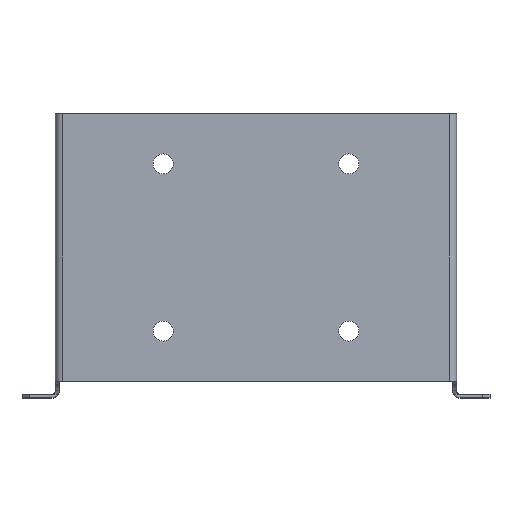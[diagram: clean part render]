
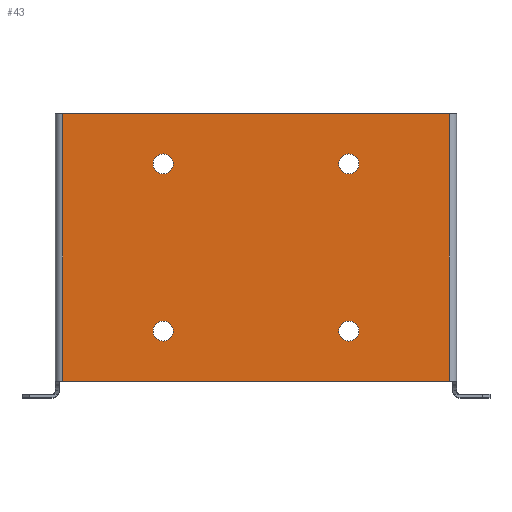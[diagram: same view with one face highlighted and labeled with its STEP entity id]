
A CAD part, top view. The second image highlights one B-rep face of the part: STEP entity #43.
In plain terms, the highlighted planar face has unit normal (0, 0, 1).
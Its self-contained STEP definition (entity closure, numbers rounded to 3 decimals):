
#9 = CARTESIAN_POINT ( 'NONE',  ( 76.3, 78.5, 100. ) ) ;
#21 = DIRECTION ( 'NONE',  ( 0., 0., 1. ) ) ;
#41 = CARTESIAN_POINT ( 'NONE',  ( 31.7, 78.5, 100. ) ) ;
#43 = ADVANCED_FACE ( 'NONE', ( #997, #580, #1010, #399, #1171 ), #867, .F. ) ;
#58 = ORIENTED_EDGE ( 'NONE', *, *, #1542, .F. ) ;
#66 = ORIENTED_EDGE ( 'NONE', *, *, #1575, .F. ) ;
#90 = CARTESIAN_POINT ( 'NONE',  ( 26.3, 78.5, 100. ) ) ;
#153 = LINE ( 'NONE', #1927, #506 ) ;
#175 = ORIENTED_EDGE ( 'NONE', *, *, #759, .T. ) ;
#178 = VECTOR ( 'NONE', #612, 1000. ) ;
#208 = ORIENTED_EDGE ( 'NONE', *, *, #485, .F. ) ;
#216 = CARTESIAN_POINT ( 'NONE',  ( 106., 20., 100. ) ) ;
#218 = VECTOR ( 'NONE', #962, 1000. ) ;
#252 = VERTEX_POINT ( 'NONE', #9 ) ;
#255 = VERTEX_POINT ( 'NONE', #1362 ) ;
#273 = DIRECTION ( 'NONE',  ( 1., 0., 0. ) ) ;
#277 = AXIS2_PLACEMENT_3D ( 'NONE', #847, #1159, #704 ) ;
#309 = CARTESIAN_POINT ( 'NONE',  ( 29., 33.5, 100. ) ) ;
#324 = LINE ( 'NONE', #1060, #178 ) ;
#336 = VERTEX_POINT ( 'NONE', #384 ) ;
#380 = EDGE_CURVE ( 'NONE', #1726, #1459, #153, .T. ) ;
#384 = CARTESIAN_POINT ( 'NONE',  ( 81.7, 78.5, 100. ) ) ;
#399 = FACE_BOUND ( 'NONE', #922, .T. ) ;
#404 = VECTOR ( 'NONE', #774, 1000. ) ;
#425 = DIRECTION ( 'NONE',  ( 1., 0., 0. ) ) ;
#428 = CARTESIAN_POINT ( 'NONE',  ( 79., 33.5, 100. ) ) ;
#443 = CIRCLE ( 'NONE', #1762, 2.7 ) ;
#447 = EDGE_CURVE ( 'NONE', #622, #1952, #721, .T. ) ;
#464 = EDGE_CURVE ( 'NONE', #252, #336, #443, .T. ) ;
#485 = EDGE_CURVE ( 'NONE', #336, #252, #1409, .T. ) ;
#506 = VECTOR ( 'NONE', #1057, 1000. ) ;
#553 = CARTESIAN_POINT ( 'NONE',  ( 0., 92., 100. ) ) ;
#564 = EDGE_LOOP ( 'NONE', ( #688, #948, #175, #1635 ) ) ;
#565 = CARTESIAN_POINT ( 'NONE',  ( 29., 78.5, 100. ) ) ;
#580 = FACE_BOUND ( 'NONE', #1896, .T. ) ;
#584 = VERTEX_POINT ( 'NONE', #1700 ) ;
#612 = DIRECTION ( 'NONE',  ( 0., 1., 0. ) ) ;
#622 = VERTEX_POINT ( 'NONE', #1384 ) ;
#638 = CARTESIAN_POINT ( 'NONE',  ( 79., 78.5, 100. ) ) ;
#688 = ORIENTED_EDGE ( 'NONE', *, *, #380, .T. ) ;
#704 = DIRECTION ( 'NONE',  ( -1., 0., 0. ) ) ;
#707 = VERTEX_POINT ( 'NONE', #90 ) ;
#715 = AXIS2_PLACEMENT_3D ( 'NONE', #428, #1147, #273 ) ;
#721 = CIRCLE ( 'NONE', #1101, 2.7 ) ;
#759 = EDGE_CURVE ( 'NONE', #1497, #255, #1432, .T. ) ;
#774 = DIRECTION ( 'NONE',  ( 0., -1., 0. ) ) ;
#776 = DIRECTION ( 'NONE',  ( 1., 0., 0. ) ) ;
#783 = CIRCLE ( 'NONE', #1400, 2.7 ) ;
#792 = DIRECTION ( 'NONE',  ( 1., 0., 0. ) ) ;
#801 = ORIENTED_EDGE ( 'NONE', *, *, #1852, .F. ) ;
#847 = CARTESIAN_POINT ( 'NONE',  ( 0., 0., 100. ) ) ;
#855 = DIRECTION ( 'NONE',  ( 0., 0., 1. ) ) ;
#867 = PLANE ( 'NONE',  #277 ) ;
#870 = DIRECTION ( 'NONE',  ( 0., 0., 1. ) ) ;
#922 = EDGE_LOOP ( 'NONE', ( #801, #1774 ) ) ;
#941 = AXIS2_PLACEMENT_3D ( 'NONE', #638, #1688, #1372 ) ;
#948 = ORIENTED_EDGE ( 'NONE', *, *, #1713, .T. ) ;
#962 = DIRECTION ( 'NONE',  ( -1., 0., 0. ) ) ;
#964 = VERTEX_POINT ( 'NONE', #1697 ) ;
#975 = AXIS2_PLACEMENT_3D ( 'NONE', #309, #1679, #1527 ) ;
#997 = FACE_BOUND ( 'NONE', #1526, .T. ) ;
#1000 = CIRCLE ( 'NONE', #1628, 2.7 ) ;
#1010 = FACE_BOUND ( 'NONE', #1536, .T. ) ;
#1026 = DIRECTION ( 'NONE',  ( 1., 0., 0. ) ) ;
#1027 = EDGE_CURVE ( 'NONE', #964, #584, #1074, .T. ) ;
#1057 = DIRECTION ( 'NONE',  ( 1., 0., 0. ) ) ;
#1060 = CARTESIAN_POINT ( 'NONE',  ( 106., 0., 100. ) ) ;
#1074 = CIRCLE ( 'NONE', #975, 2.7 ) ;
#1082 = ORIENTED_EDGE ( 'NONE', *, *, #464, .F. ) ;
#1087 = CARTESIAN_POINT ( 'NONE',  ( 29., 78.5, 100. ) ) ;
#1101 = AXIS2_PLACEMENT_3D ( 'NONE', #1763, #870, #1464 ) ;
#1116 = VERTEX_POINT ( 'NONE', #41 ) ;
#1147 = DIRECTION ( 'NONE',  ( 0., 0., 1. ) ) ;
#1159 = DIRECTION ( 'NONE',  ( 0., 0., -1. ) ) ;
#1164 = ORIENTED_EDGE ( 'NONE', *, *, #1732, .F. ) ;
#1171 = FACE_OUTER_BOUND ( 'NONE', #564, .T. ) ;
#1174 = CARTESIAN_POINT ( 'NONE',  ( 79., 78.5, 100. ) ) ;
#1197 = CARTESIAN_POINT ( 'NONE',  ( 2., 20., 100. ) ) ;
#1221 = CIRCLE ( 'NONE', #715, 2.7 ) ;
#1256 = CARTESIAN_POINT ( 'NONE',  ( 2., 0., 100. ) ) ;
#1362 = CARTESIAN_POINT ( 'NONE',  ( 2., 92., 100. ) ) ;
#1372 = DIRECTION ( 'NONE',  ( 1., 0., 0. ) ) ;
#1384 = CARTESIAN_POINT ( 'NONE',  ( 81.7, 33.5, 100. ) ) ;
#1385 = DIRECTION ( 'NONE',  ( 0., 0., 1. ) ) ;
#1400 = AXIS2_PLACEMENT_3D ( 'NONE', #565, #855, #1026 ) ;
#1409 = CIRCLE ( 'NONE', #941, 2.7 ) ;
#1432 = LINE ( 'NONE', #553, #218 ) ;
#1459 = VERTEX_POINT ( 'NONE', #216 ) ;
#1464 = DIRECTION ( 'NONE',  ( 1., 0., 0. ) ) ;
#1469 = AXIS2_PLACEMENT_3D ( 'NONE', #1087, #21, #776 ) ;
#1497 = VERTEX_POINT ( 'NONE', #1545 ) ;
#1526 = EDGE_LOOP ( 'NONE', ( #1164, #66 ) ) ;
#1527 = DIRECTION ( 'NONE',  ( 1., 0., 0. ) ) ;
#1536 = EDGE_LOOP ( 'NONE', ( #1685, #58 ) ) ;
#1542 = EDGE_CURVE ( 'NONE', #1952, #622, #1221, .T. ) ;
#1545 = CARTESIAN_POINT ( 'NONE',  ( 106., 92., 100. ) ) ;
#1575 = EDGE_CURVE ( 'NONE', #707, #1116, #783, .T. ) ;
#1576 = CARTESIAN_POINT ( 'NONE',  ( 29., 33.5, 100. ) ) ;
#1597 = CIRCLE ( 'NONE', #1469, 2.7 ) ;
#1628 = AXIS2_PLACEMENT_3D ( 'NONE', #1576, #1385, #792 ) ;
#1635 = ORIENTED_EDGE ( 'NONE', *, *, #1946, .T. ) ;
#1679 = DIRECTION ( 'NONE',  ( 0., 0., 1. ) ) ;
#1685 = ORIENTED_EDGE ( 'NONE', *, *, #447, .F. ) ;
#1688 = DIRECTION ( 'NONE',  ( 0., 0., 1. ) ) ;
#1697 = CARTESIAN_POINT ( 'NONE',  ( 26.3, 33.5, 100. ) ) ;
#1700 = CARTESIAN_POINT ( 'NONE',  ( 31.7, 33.5, 100. ) ) ;
#1713 = EDGE_CURVE ( 'NONE', #1459, #1497, #324, .T. ) ;
#1726 = VERTEX_POINT ( 'NONE', #1197 ) ;
#1732 = EDGE_CURVE ( 'NONE', #1116, #707, #1597, .T. ) ;
#1762 = AXIS2_PLACEMENT_3D ( 'NONE', #1174, #1771, #425 ) ;
#1763 = CARTESIAN_POINT ( 'NONE',  ( 79., 33.5, 100. ) ) ;
#1771 = DIRECTION ( 'NONE',  ( 0., 0., 1. ) ) ;
#1774 = ORIENTED_EDGE ( 'NONE', *, *, #1027, .F. ) ;
#1810 = LINE ( 'NONE', #1256, #404 ) ;
#1852 = EDGE_CURVE ( 'NONE', #584, #964, #1000, .T. ) ;
#1896 = EDGE_LOOP ( 'NONE', ( #208, #1082 ) ) ;
#1927 = CARTESIAN_POINT ( 'NONE',  ( 0., 20., 100. ) ) ;
#1946 = EDGE_CURVE ( 'NONE', #255, #1726, #1810, .T. ) ;
#1947 = CARTESIAN_POINT ( 'NONE',  ( 76.3, 33.5, 100. ) ) ;
#1952 = VERTEX_POINT ( 'NONE', #1947 ) ;
